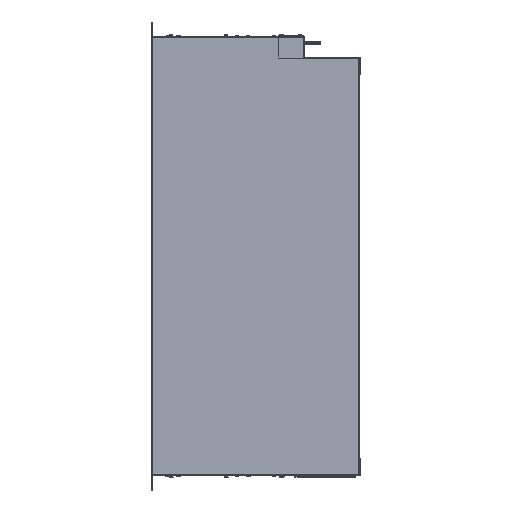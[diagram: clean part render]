
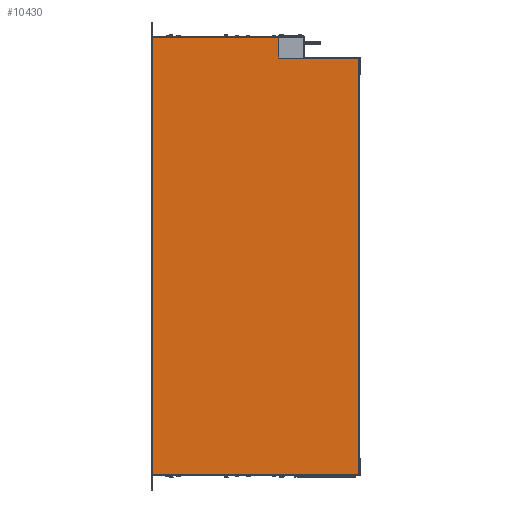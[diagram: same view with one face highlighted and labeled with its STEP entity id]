
A CAD part, front view. The second image highlights one B-rep face of the part: STEP entity #10430.
In plain terms, the highlighted planar face has unit normal (0.022, -1, 0) as drawn and (0, 0, -1) by its records, which use the part's own axes.
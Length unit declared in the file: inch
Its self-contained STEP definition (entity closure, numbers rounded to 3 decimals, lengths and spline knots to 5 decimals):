
#52 = EDGE_CURVE ( 'NONE', #17766, #15719, #4350, .T. ) ;
#60 = LINE ( 'NONE', #31090, #12435 ) ;
#99 = VERTEX_POINT ( 'NONE', #5988 ) ;
#660 = DIRECTION ( 'NONE',  ( 0., -1., 0. ) ) ;
#1047 = ORIENTED_EDGE ( 'NONE', *, *, #28821, .F. ) ;
#1235 = DIRECTION ( 'NONE',  ( 0., 1., 0. ) ) ;
#1816 = CARTESIAN_POINT ( 'NONE',  ( 34.71453, 42.62886, 0. ) ) ;
#1904 = VECTOR ( 'NONE', #4955, 39.37008 ) ;
#2010 = CARTESIAN_POINT ( 'NONE',  ( 34.79265, 0.76816, 0. ) ) ;
#2428 = VERTEX_POINT ( 'NONE', #25519 ) ;
#2764 = VECTOR ( 'NONE', #7726, 39.37008 ) ;
#2883 = LINE ( 'NONE', #15622, #27997 ) ;
#3365 = CARTESIAN_POINT ( 'NONE',  ( 14.99935, 42.64448, 0. ) ) ;
#3672 = LINE ( 'NONE', #6180, #9542 ) ;
#3838 = CARTESIAN_POINT ( 'NONE',  ( 14.99935, 42.666, 0. ) ) ;
#4039 = DIRECTION ( 'NONE',  ( 1., 0., 0. ) ) ;
#4191 = DIRECTION ( 'NONE',  ( 0., 0., 1. ) ) ;
#4219 = EDGE_CURVE ( 'NONE', #9543, #16653, #5273, .T. ) ;
#4310 = CARTESIAN_POINT ( 'NONE',  ( 34.79265, 2.68031, 0. ) ) ;
#4350 = LINE ( 'NONE', #8050, #2764 ) ;
#4741 = PLANE ( 'NONE',  #27115 ) ;
#4955 = DIRECTION ( 'NONE',  ( 0., -1., 0. ) ) ;
#4989 = CARTESIAN_POINT ( 'NONE',  ( 34.71453, 42.666, 0. ) ) ;
#5207 = LINE ( 'NONE', #30761, #9490 ) ;
#5273 = LINE ( 'NONE', #17344, #11111 ) ;
#5711 = LINE ( 'NONE', #2010, #30626 ) ;
#5988 = CARTESIAN_POINT ( 'NONE',  ( 14.93096, 42.64448, 0. ) ) ;
#6180 = CARTESIAN_POINT ( 'NONE',  ( 34.71453, 42.62886, 0. ) ) ;
#6281 = DIRECTION ( 'NONE',  ( 0., -1., 0. ) ) ;
#6549 = ORIENTED_EDGE ( 'NONE', *, *, #23174, .T. ) ;
#6825 = CARTESIAN_POINT ( 'NONE',  ( 34.79265, 2.80531, 0. ) ) ;
#6940 = VERTEX_POINT ( 'NONE', #29214 ) ;
#7170 = ORIENTED_EDGE ( 'NONE', *, *, #9811, .F. ) ;
#7358 = VECTOR ( 'NONE', #25429, 39.37008 ) ;
#7712 = CARTESIAN_POINT ( 'NONE',  ( 29.54265, 2.78968, 0. ) ) ;
#7726 = DIRECTION ( 'NONE',  ( -1., 0., 0. ) ) ;
#7809 = CARTESIAN_POINT ( 'NONE',  ( 29.54265, 2.71156, 0. ) ) ;
#8050 = CARTESIAN_POINT ( 'NONE',  ( 34.79265, 42.62886, 0. ) ) ;
#8693 = ORIENTED_EDGE ( 'NONE', *, *, #52, .F. ) ;
#9351 = CARTESIAN_POINT ( 'NONE',  ( 34.79265, 42.666, 0. ) ) ;
#9430 = EDGE_CURVE ( 'NONE', #99, #30892, #20808, .T. ) ;
#9490 = VECTOR ( 'NONE', #30572, 39.37008 ) ;
#9542 = VECTOR ( 'NONE', #6281, 39.37008 ) ;
#9543 = VERTEX_POINT ( 'NONE', #7712 ) ;
#9566 = DIRECTION ( 'NONE',  ( -1., 0., 0. ) ) ;
#9684 = VERTEX_POINT ( 'NONE', #3838 ) ;
#9811 = EDGE_CURVE ( 'NONE', #99, #25811, #5207, .T. ) ;
#9922 = CARTESIAN_POINT ( 'NONE',  ( 29.41765, 2.71156, 0. ) ) ;
#10237 = ORIENTED_EDGE ( 'NONE', *, *, #25583, .T. ) ;
#10430 = ADVANCED_FACE ( 'NONE', ( #27167 ), #4741, .F. ) ;
#10737 = VECTOR ( 'NONE', #22251, 39.37008 ) ;
#11093 = CARTESIAN_POINT ( 'NONE',  ( 34.71453, 2.80531, 0. ) ) ;
#11111 = VECTOR ( 'NONE', #16765, 39.37008 ) ;
#11170 = CARTESIAN_POINT ( 'NONE',  ( 34.73605, 2.68031, 0. ) ) ;
#11174 = DIRECTION ( 'NONE',  ( 1., 0., 0. ) ) ;
#11217 = VECTOR ( 'NONE', #21543, 39.37008 ) ;
#11352 = CARTESIAN_POINT ( 'NONE',  ( 14.99935, 42.64448, 0. ) ) ;
#11461 = ORIENTED_EDGE ( 'NONE', *, *, #29499, .F. ) ;
#11978 = CARTESIAN_POINT ( 'NONE',  ( 34.71453, 2.80531, 0. ) ) ;
#12197 = VERTEX_POINT ( 'NONE', #4989 ) ;
#12435 = VECTOR ( 'NONE', #9566, 39.37008 ) ;
#12893 = CARTESIAN_POINT ( 'NONE',  ( 14.99935, -0.98147, 0. ) ) ;
#13014 = VERTEX_POINT ( 'NONE', #22055 ) ;
#13062 = CARTESIAN_POINT ( 'NONE',  ( 14.93096, 0.78968, 0. ) ) ;
#13353 = DIRECTION ( 'NONE',  ( -1., 0., 0. ) ) ;
#13577 = ORIENTED_EDGE ( 'NONE', *, *, #27179, .T. ) ;
#14897 = ORIENTED_EDGE ( 'NONE', *, *, #29136, .F. ) ;
#15014 = ORIENTED_EDGE ( 'NONE', *, *, #27501, .F. ) ;
#15202 = LINE ( 'NONE', #12893, #27265 ) ;
#15335 = LINE ( 'NONE', #11093, #7358 ) ;
#15571 = CARTESIAN_POINT ( 'NONE',  ( 14.99935, 0.78968, 0. ) ) ;
#15622 = CARTESIAN_POINT ( 'NONE',  ( 14.99935, 0.78968, 0. ) ) ;
#15719 = VERTEX_POINT ( 'NONE', #1816 ) ;
#16653 = VERTEX_POINT ( 'NONE', #18198 ) ;
#16765 = DIRECTION ( 'NONE',  ( -1., 0., 0. ) ) ;
#17344 = CARTESIAN_POINT ( 'NONE',  ( 29.41765, 2.78968, 0. ) ) ;
#17455 = VECTOR ( 'NONE', #23718, 39.37008 ) ;
#17766 = VERTEX_POINT ( 'NONE', #30314 ) ;
#17768 = VECTOR ( 'NONE', #11174, 39.37008 ) ;
#18198 = CARTESIAN_POINT ( 'NONE',  ( 29.41765, 2.78968, 0. ) ) ;
#18218 = LINE ( 'NONE', #6825, #17455 ) ;
#19512 = CARTESIAN_POINT ( 'NONE',  ( 14.99935, 42.72261, 0. ) ) ;
#19599 = ORIENTED_EDGE ( 'NONE', *, *, #9430, .T. ) ;
#20050 = EDGE_LOOP ( 'NONE', ( #30917, #26215, #6549, #7170, #19599, #23941, #15014, #30292, #8693, #11461, #14897, #13577, #10237, #27297, #24298, #1047 ) ) ;
#20808 = LINE ( 'NONE', #11352, #17768 ) ;
#21400 = LINE ( 'NONE', #19512, #1904 ) ;
#21543 = DIRECTION ( 'NONE',  ( -1., 0., 0. ) ) ;
#21872 = DIRECTION ( 'NONE',  ( 0., 1., 0. ) ) ;
#21933 = EDGE_CURVE ( 'NONE', #25411, #6940, #15202, .T. ) ;
#22055 = CARTESIAN_POINT ( 'NONE',  ( 29.54265, 2.76816, 0. ) ) ;
#22251 = DIRECTION ( 'NONE',  ( 0., -1., 0. ) ) ;
#22303 = EDGE_CURVE ( 'NONE', #6940, #28943, #5711, .T. ) ;
#23174 = EDGE_CURVE ( 'NONE', #25411, #25811, #2883, .T. ) ;
#23558 = CARTESIAN_POINT ( 'NONE',  ( 34.73605, 2.80531, 0. ) ) ;
#23718 = DIRECTION ( 'NONE',  ( 1., 0., 0. ) ) ;
#23941 = ORIENTED_EDGE ( 'NONE', *, *, #26246, .F. ) ;
#23957 = DIRECTION ( 'NONE',  ( 1., 0., 0. ) ) ;
#24243 = VECTOR ( 'NONE', #21872, 39.37008 ) ;
#24251 = LINE ( 'NONE', #11170, #30638 ) ;
#24298 = ORIENTED_EDGE ( 'NONE', *, *, #4219, .T. ) ;
#24998 = LINE ( 'NONE', #9922, #24243 ) ;
#25411 = VERTEX_POINT ( 'NONE', #15571 ) ;
#25429 = DIRECTION ( 'NONE',  ( 0., -1., 0. ) ) ;
#25519 = CARTESIAN_POINT ( 'NONE',  ( 34.71453, 2.76816, 0. ) ) ;
#25583 = EDGE_CURVE ( 'NONE', #2428, #13014, #60, .T. ) ;
#25811 = VERTEX_POINT ( 'NONE', #13062 ) ;
#26139 = VERTEX_POINT ( 'NONE', #11978 ) ;
#26215 = ORIENTED_EDGE ( 'NONE', *, *, #21933, .F. ) ;
#26246 = EDGE_CURVE ( 'NONE', #9684, #30892, #21400, .T. ) ;
#27065 = CARTESIAN_POINT ( 'NONE',  ( 29.41765, 0.76816, 0. ) ) ;
#27115 = AXIS2_PLACEMENT_3D ( 'NONE', #4310, #4191, #4039 ) ;
#27167 = FACE_OUTER_BOUND ( 'NONE', #20050, .T. ) ;
#27179 = EDGE_CURVE ( 'NONE', #26139, #2428, #15335, .T. ) ;
#27265 = VECTOR ( 'NONE', #660, 39.37008 ) ;
#27297 = ORIENTED_EDGE ( 'NONE', *, *, #30056, .F. ) ;
#27501 = EDGE_CURVE ( 'NONE', #12197, #9684, #30334, .T. ) ;
#27997 = VECTOR ( 'NONE', #13353, 39.37008 ) ;
#28647 = VERTEX_POINT ( 'NONE', #23558 ) ;
#28821 = EDGE_CURVE ( 'NONE', #28943, #16653, #24998, .T. ) ;
#28943 = VERTEX_POINT ( 'NONE', #27065 ) ;
#29136 = EDGE_CURVE ( 'NONE', #26139, #28647, #18218, .T. ) ;
#29214 = CARTESIAN_POINT ( 'NONE',  ( 14.99935, 0.76816, 0. ) ) ;
#29499 = EDGE_CURVE ( 'NONE', #28647, #17766, #24251, .T. ) ;
#29865 = LINE ( 'NONE', #7809, #10737 ) ;
#30056 = EDGE_CURVE ( 'NONE', #9543, #13014, #29865, .T. ) ;
#30292 = ORIENTED_EDGE ( 'NONE', *, *, #30316, .T. ) ;
#30314 = CARTESIAN_POINT ( 'NONE',  ( 34.73605, 42.62886, 0. ) ) ;
#30316 = EDGE_CURVE ( 'NONE', #12197, #15719, #3672, .T. ) ;
#30334 = LINE ( 'NONE', #9351, #11217 ) ;
#30572 = DIRECTION ( 'NONE',  ( 0., -1., 0. ) ) ;
#30626 = VECTOR ( 'NONE', #23957, 39.37008 ) ;
#30638 = VECTOR ( 'NONE', #1235, 39.37008 ) ;
#30761 = CARTESIAN_POINT ( 'NONE',  ( 14.93096, 2.68031, 0. ) ) ;
#30892 = VERTEX_POINT ( 'NONE', #3365 ) ;
#30917 = ORIENTED_EDGE ( 'NONE', *, *, #22303, .F. ) ;
#31090 = CARTESIAN_POINT ( 'NONE',  ( 34.79265, 2.76816, 0. ) ) ;
